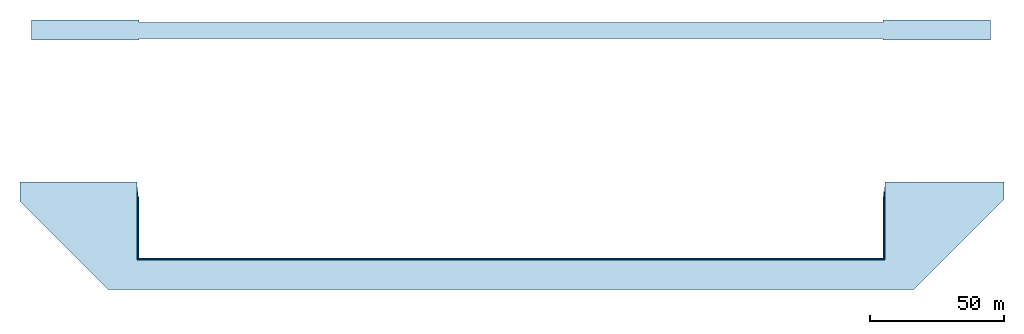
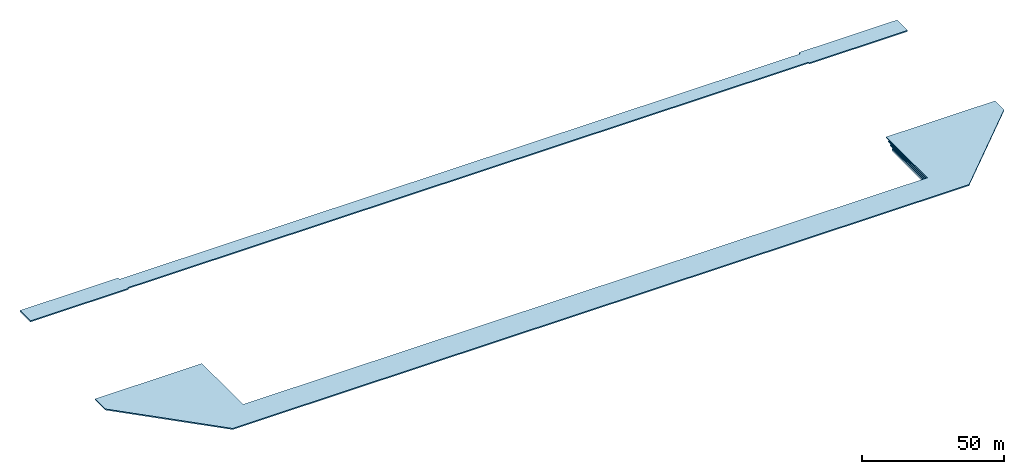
# One storey: 1 slab.
"""IFC2X3 building model written with IfcOpenShell, lengths in millimetres."""

from ifc_helpers import new_model, entity, si_unit, converted_unit, derived_unit, direction, frame, origin, place, context, subcontext, project, spatial, polyline, outline, extrude, type_object, element, save


model = new_model("IFC2X3")

# Units and contexts
model_context = context("Model", 3, precision=0.01, world=origin(), true_north=direction((6.12303176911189e-17, 1.0)))
body_context = subcontext(model_context, "Body", "Model", "MODEL_VIEW")
ifc_project = project(units=[si_unit("LENGTHUNIT", "METRE", prefix="MILLI"), si_unit("AREAUNIT", "SQUARE_METRE"), si_unit("VOLUMEUNIT", "CUBIC_METRE"), converted_unit("PLANEANGLEUNIT", "DEGREE", entity("IfcRatioMeasure", 0.0174532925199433), si_unit("PLANEANGLEUNIT", "RADIAN"), dimensions=[0, 0, 0, 0, 0, 0, 0]), si_unit("MASSUNIT", "GRAM", prefix="KILO"), derived_unit("MASSDENSITYUNIT", [(si_unit("MASSUNIT", "GRAM", prefix="KILO"), 1), (si_unit("LENGTHUNIT", "METRE"), -3)]), si_unit("TIMEUNIT", "SECOND"), si_unit("FREQUENCYUNIT", "HERTZ"), si_unit("THERMODYNAMICTEMPERATUREUNIT", "DEGREE_CELSIUS"), derived_unit("THERMALTRANSMITTANCEUNIT", [(si_unit("MASSUNIT", "GRAM", prefix="KILO"), 1), (si_unit("THERMODYNAMICTEMPERATUREUNIT", "KELVIN"), -1), (si_unit("TIMEUNIT", "SECOND"), -3)]), derived_unit("VOLUMETRICFLOWRATEUNIT", [(si_unit("LENGTHUNIT", "METRE"), 3), (si_unit("TIMEUNIT", "SECOND"), -1)]), si_unit("ELECTRICCURRENTUNIT", "AMPERE"), si_unit("ELECTRICVOLTAGEUNIT", "VOLT"), si_unit("POWERUNIT", "WATT"), si_unit("FORCEUNIT", "NEWTON", prefix="KILO"), si_unit("ILLUMINANCEUNIT", "LUX"), si_unit("LUMINOUSFLUXUNIT", "LUMEN"), si_unit("LUMINOUSINTENSITYUNIT", "CANDELA"), derived_unit("USERDEFINED", [(si_unit("MASSUNIT", "GRAM", prefix="KILO"), -1), (si_unit("LENGTHUNIT", "METRE"), -2), (si_unit("TIMEUNIT", "SECOND"), 3), (si_unit("LUMINOUSFLUXUNIT", "LUMEN"), 1)]), derived_unit("LINEARVELOCITYUNIT", [(si_unit("LENGTHUNIT", "METRE"), 1), (si_unit("TIMEUNIT", "SECOND"), -1)]), si_unit("PRESSUREUNIT", "PASCAL"), derived_unit("USERDEFINED", [(si_unit("LENGTHUNIT", "METRE"), -2), (si_unit("MASSUNIT", "GRAM", prefix="KILO"), 1), (si_unit("TIMEUNIT", "SECOND"), -2)])], contexts=[model_context])

# Site, building, storey
site_placement = place(None, origin())
site = spatial("IfcSite", under=ifc_project, at=site_placement, Name="Default", CompositionType="ELEMENT")
building_placement = place(site_placement, origin())
building = spatial("IfcBuilding", under=site, at=building_placement, CompositionType="ELEMENT")
storey_placement = place(building_placement, frame((0.0, 0.0, 8200.0)))
storey = spatial("IfcBuildingStorey", under=building, at=storey_placement, Name="AP+8.200", CompositionType="ELEMENT", Elevation=8200.0)

# Slab
slab_type = type_object("IfcSlabType", Name="かごマット", PredefinedType="FLOOR")
slab_placement = place(storey_placement, origin())
element("IfcSlab", 1, at=slab_placement, inside=storey, type_object=slab_type, Name="かごマット:かごマット", ObjectType="かごマット:かごマット", PredefinedType="FLOOR", context=body_context, shape_type="SweptSolid", body=[
    extrude(outline(polyline([(-3775.06903888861, -178604.0), (3637.53451944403, -178604.0), (3637.53451944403, -138604.0), (3137.53451944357, -138604.0), (3137.53451944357, 138604.0), (3637.5345194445, 138604.0), (3637.5345194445, 178604.0), (-3775.06903888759, 178604.0), (-3775.06903888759, 138604.0), (-2862.46548055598, 138604.0), (-2862.46548055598, -138604.0), (-3775.06903888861, -138604.0), (-3775.06903888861, -178604.0)])), frame((10146.0, 32089.5345194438, -500.0), z_axis=(0.0, 0.0, 1.0), x_axis=(0.0, -1.0, 0.0)), (0.0, 0.0, 1.0), 500.0),
    extrude(outline(polyline([(-11684.3500000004, -139604.0), (12184.3499999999, -139604.0), (12184.3499999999, 139604.0), (-11684.3499999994, 139604.0), (-11684.3499999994, 138604.0), (11184.3499999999, 138604.0), (11184.3499999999, -138604.0), (-11684.3500000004, -138604.0), (-11684.3500000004, -139604.0)])), frame((10146.0, -41565.6500000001, -2500.0), z_axis=(0.0, 0.0, 1.0), x_axis=(0.0, -1.0, 0.0)), (0.0, 0.0, 1.0), 1000.0),
    extrude(outline(polyline([(-12709.3500000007, -139854.0), (13209.3499999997, -139854.0), (13209.3499999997, 139854.0), (-12709.3499999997, 139854.0), (-12709.3499999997, 138854.0), (12209.3500000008, 138854.0), (12209.3500000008, -138854.0), (-12709.3500000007, -138854.0), (-12709.3500000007, -139854.0)])), frame((10146.0, -40790.6500000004, -1500.0), z_axis=(0.0, 0.0, 1.0), x_axis=(0.0, -1.0, 0.0)), (0.0, 0.0, 1.0), 500.0),
    extrude(outline(polyline([(139041.5, -13734.3500000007), (140041.5, -13734.3500000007), (140041.5, 14234.3500000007), (-139916.5, 14234.3500000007), (-139916.5, -13734.3499999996), (-139166.5, -13734.3499999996), (-139166.5, 13234.3499999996), (139041.5, 13234.3499999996), (139041.5, -13734.3500000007)])), frame((10083.4999999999, -40015.6500000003, -1000.0), z_axis=(0.0, 0.0, 1.0), x_axis=(-1.0, 0.0, 0.0)), (0.0, 0.0, 1.0), 500.0),
    extrude(outline(polyline([(-135096.014776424, -123752.250068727), (-88598.4679940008, -123752.250068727), (123533.809281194, 88380.0272064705), (123533.809369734, 135978.561421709), (119039.8249295, 140472.545861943), (87710.381629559, 109143.102562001), (108229.701180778, 88623.7830107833), (-88846.6155901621, -108452.533760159), (-109365.93514138, -87933.21420894), (-140140.492888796, -118707.771956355), (-135096.014776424, -123752.250068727)])), frame((10303.5664279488, -39636.5223106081, -500.0), z_axis=(0.0, 0.0, 1.0), x_axis=(0.707106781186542, -0.707106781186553, 0.0)), (0.0, 0.0, 1.0), 500.0),
])

save(model, "model.ifc")
